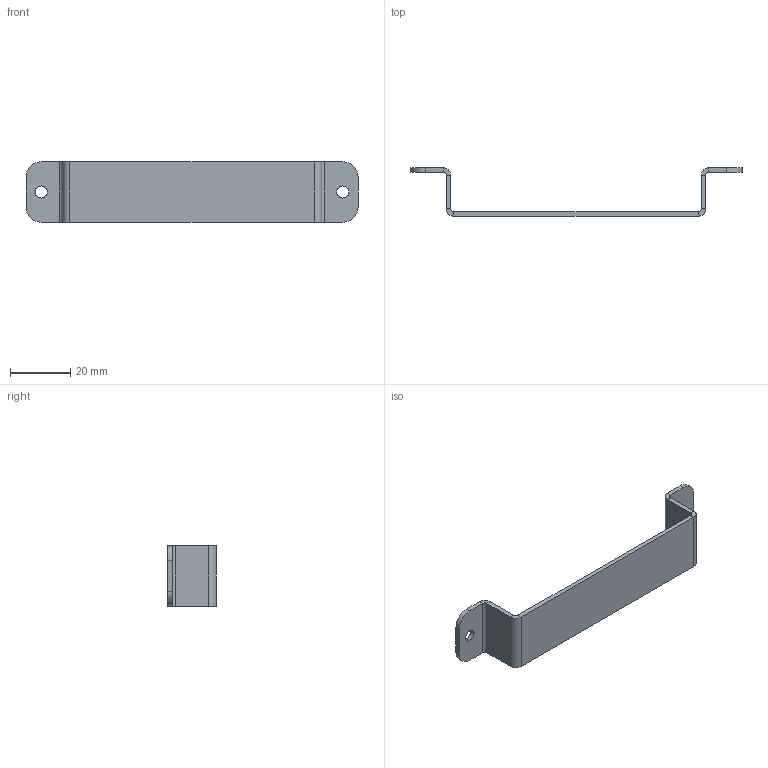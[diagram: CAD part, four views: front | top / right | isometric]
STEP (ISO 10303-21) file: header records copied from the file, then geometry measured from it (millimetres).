
FILE_DESCRIPTION (( 'STEP AP214' ), '1' );
FILE_NAME ('JYXJ-000-005-012-A 苤倰蝠遙儂揤啣.STEP', '2025-07-15T03:10:31', ( '' ), ( '' ), 'SwSTEP 2.0', 'SolidWorks 2020', '' );
FILE_SCHEMA (( 'AUTOMOTIVE_DESIGN' ));
Length unit declared in the file: millimetre
Products named in the file (1): JYXJ-000-005-012-A 苤倰蝠遙儂揤啣
Bounding box: 110 x 16 x 20 mm (x, y, z)
Volume: 4010 mm3; surface area: 5839.4 mm2
Topology: 1 solids, 1 shells, 46 faces, 100 edges, 56 vertices
Faces by surface type: plane 30, cylinder 16
Entity records: 1262 total; most frequent: DIRECTION 226, CARTESIAN_POINT 203, ORIENTED_EDGE 200, EDGE_CURVE 100, AXIS2_PLACEMENT_3D 79, LINE 68, VECTOR 68, VERTEX_POINT 56
